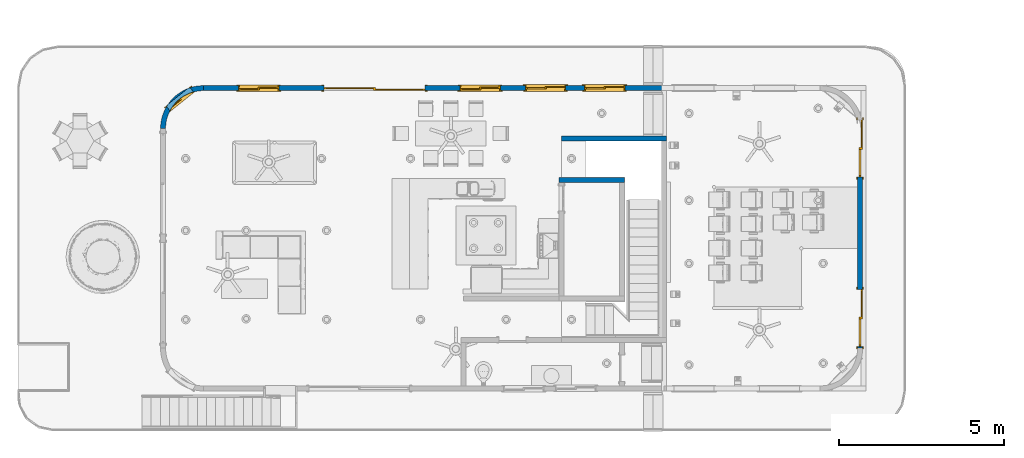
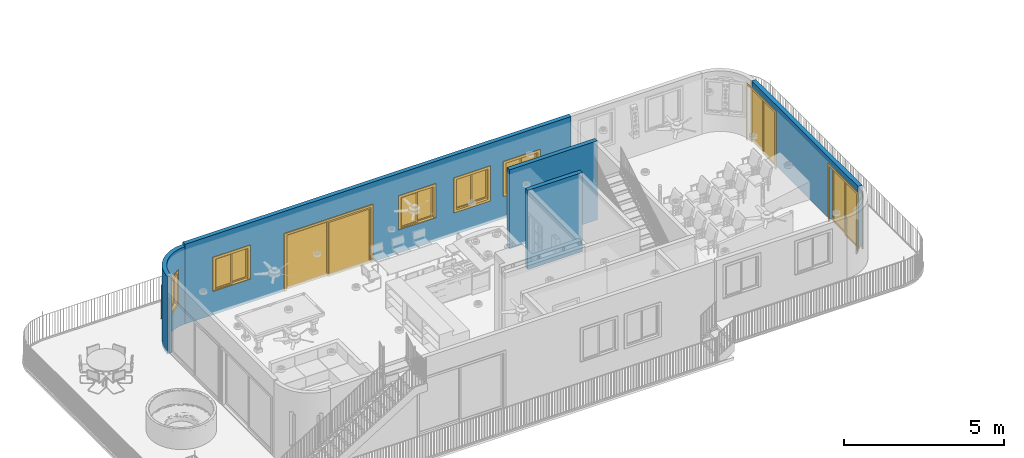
# One storey, part 4 of 21: 5 walls, 5 windows, 3 doors, 8 openings.
"""IFC2X3 building model written with IfcOpenShell, lengths in feet."""

from ifc_helpers import new_model, entity, si_unit, converted_unit, derived_unit, direction, frame, frame_2d, origin, origin_2d_with_axis, place, context, subcontext, project, spatial, polyline, circle_curve, parameter, trimmed, segment, composite_curve, rectangle, outline, extrude, clip, bounded_halfspace, source, transform, mapped, material, material_list, layer, layer_set, layer_usage, type_object, type_shapes, element, fill, save


model = new_model("IFC2X3")

# Units and contexts
model_context = context("Model", 3, precision=0.0001, world=origin(), true_north=direction((6.12303176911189e-17, 1.0)))
body_context = subcontext(model_context, "Body", "Model", "MODEL_VIEW")
ifc_project = project(units=[converted_unit("LENGTHUNIT", "FOOT", entity("IfcRatioMeasure", 0.3048), si_unit("LENGTHUNIT", "METRE"), dimensions=[1, 0, 0, 0, 0, 0, 0]), converted_unit("AREAUNIT", "SQUARE FOOT", entity("IfcRatioMeasure", 0.09290304), si_unit("AREAUNIT", "SQUARE_METRE"), dimensions=[2, 0, 0, 0, 0, 0, 0]), converted_unit("VOLUMEUNIT", "CUBIC FOOT", entity("IfcRatioMeasure", 0.028316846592), si_unit("VOLUMEUNIT", "CUBIC_METRE"), dimensions=[3, 0, 0, 0, 0, 0, 0]), converted_unit("PLANEANGLEUNIT", "DEGREE", entity("IfcRatioMeasure", 0.0174532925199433), si_unit("PLANEANGLEUNIT", "RADIAN"), dimensions=[0, 0, 0, 0, 0, 0, 0]), si_unit("MASSUNIT", "GRAM", prefix="KILO"), derived_unit("MASSDENSITYUNIT", [(si_unit("MASSUNIT", "GRAM", prefix="KILO"), 1), (si_unit("LENGTHUNIT", "METRE"), -3)]), si_unit("TIMEUNIT", "SECOND"), si_unit("FREQUENCYUNIT", "HERTZ"), si_unit("THERMODYNAMICTEMPERATUREUNIT", "DEGREE_CELSIUS"), derived_unit("THERMALTRANSMITTANCEUNIT", [(si_unit("MASSUNIT", "GRAM", prefix="KILO"), 1), (si_unit("THERMODYNAMICTEMPERATUREUNIT", "KELVIN"), -1), (si_unit("TIMEUNIT", "SECOND"), -3)]), derived_unit("VOLUMETRICFLOWRATEUNIT", [(si_unit("LENGTHUNIT", "METRE"), 3), (si_unit("TIMEUNIT", "SECOND"), -1)]), si_unit("ELECTRICCURRENTUNIT", "AMPERE"), si_unit("ELECTRICVOLTAGEUNIT", "VOLT"), si_unit("POWERUNIT", "WATT"), si_unit("FORCEUNIT", "NEWTON"), si_unit("ILLUMINANCEUNIT", "LUX"), si_unit("LUMINOUSFLUXUNIT", "LUMEN"), si_unit("LUMINOUSINTENSITYUNIT", "CANDELA"), derived_unit("USERDEFINED", [(si_unit("MASSUNIT", "GRAM", prefix="KILO"), -1), (si_unit("LENGTHUNIT", "METRE"), -2), (si_unit("TIMEUNIT", "SECOND"), 3), (si_unit("LUMINOUSFLUXUNIT", "LUMEN"), 1)]), derived_unit("LINEARVELOCITYUNIT", [(si_unit("LENGTHUNIT", "METRE"), 1), (si_unit("TIMEUNIT", "SECOND"), -1)]), si_unit("PRESSUREUNIT", "PASCAL"), derived_unit("USERDEFINED", [(si_unit("LENGTHUNIT", "METRE"), -2), (si_unit("MASSUNIT", "GRAM", prefix="KILO"), 1), (si_unit("TIMEUNIT", "SECOND"), -2)])], contexts=[model_context])

# Site, building, storey
site_placement = place(None, origin())
site = spatial("IfcSite", under=ifc_project, at=site_placement, Name="表面", CompositionType="ELEMENT")
building_placement = place(site_placement, origin())
building = spatial("IfcBuilding", under=site, at=building_placement, CompositionType="ELEMENT")
storey_placement = place(building_placement, origin())
storey = spatial("IfcBuildingStorey", under=building, at=storey_placement, Name="Level 1", CompositionType="ELEMENT", Elevation=0.0)

# Walls
ifc_material_1 = material(Name="Paint")
ifc_layer_1 = layer(ifc_material_1, 0.333333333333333)
ifc_material_2 = material(Name="Paints and Coatings")
ifc_layer_2 = layer(ifc_material_2, 0.166666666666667)
ifc_layer_set = layer_set([ifc_layer_1, ifc_layer_2], Name="基本墙:Generic - 4\" Brick")
ifc_layer_usage_1 = layer_usage(ifc_layer_set, "AXIS2", "NEGATIVE", 0.25)
wall_type = type_object("IfcWallType", Name="基本墙:Generic - 4\" Brick", PredefinedType="STANDARD", material=ifc_layer_set)
wall_1_placement = place(storey_placement, frame((5.79842024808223, 11.6823936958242, 0.0)))
element("IfcWallStandardCase", 1, at=wall_1_placement, inside=storey, type_object=wall_type, material=ifc_layer_usage_1, Name="基本墙:Generic - 4\" Brick", ObjectType="基本墙:Generic - 4\" Brick:257", context=body_context, shape_type="Clipping", body=[
    clip(extrude(rectangle(XDim=10.4166666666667, YDim=0.5, at=frame_2d((5.20833333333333, 3.88578058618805e-16), x_axis=(-1.0, 0.0))), origin(), (0.0, 0.0, 1.0), 9.90624999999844), bounded_halfspace(frame((9.91666666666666, -0.25, 9.90624999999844), z_axis=(0.0, 0.0, -1.0), x_axis=(0.0, -1.0, 0.0)), True, frame((9.91666666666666, -0.25, 9.90624999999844)), polyline([(0.0, 0.0), (0.5, 0.0), (0.499999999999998, 0.500000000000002), (0.0, 0.5), (0.0, 0.0)]))),
])
ifc_layer_usage_2 = layer_usage(ifc_layer_set, "AXIS2", "NEGATIVE", 0.25)
wall_2_placement = place(storey_placement, frame((5.54842024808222, 7.54043959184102, 0.0)))
element("IfcWallStandardCase", 2, at=wall_2_placement, inside=storey, type_object=wall_type, material=ifc_layer_usage_2, Name="基本墙:Generic - 4\" Brick", ObjectType="基本墙:Generic - 4\" Brick:257", context=body_context, shape_type="Clipping", body=[
    clip(clip(extrude(rectangle(XDim=6.50000000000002, YDim=0.5, at=frame_2d((3.25000000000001, -2.35922392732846e-16), x_axis=(-1.0, 0.0))), origin(), (0.0, 0.0, 1.0), 9.90624999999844), bounded_halfspace(frame((0.0, -0.25, 9.90624999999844), z_axis=(0.0, 0.0, -1.0), x_axis=(0.0, -1.0, 0.0)), True, frame((0.0, -0.25, 9.90624999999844)), polyline([(0.0, 0.0), (0.249999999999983, 0.0), (0.249999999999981, 0.499999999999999), (0.0, 0.5), (0.0, 0.0)]))), bounded_halfspace(frame((0.249999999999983, -0.250000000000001, 9.90624999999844), z_axis=(0.0, 0.0, -1.0), x_axis=(0.0, -1.0, 0.0)), True, frame((0.249999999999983, -0.250000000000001, 9.90624999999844)), polyline([(0.0, 0.0), (0.250000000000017, 0.0), (5.75000000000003, 0.0), (6.25000000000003, 0.0), (6.25000000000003, 0.5), (0.0, 0.5), (0.0, 0.0)]))),
])

# Wall, openings, door, windows
ifc_layer_usage_3 = layer_usage(ifc_layer_set, "AXIS2", "NEGATIVE", 0.25)
wall_3_placement = place(storey_placement, frame((-29.7849130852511, 16.6823936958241, 0.0)))
wall_3 = element("IfcWallStandardCase", 3, at=wall_3_placement, inside=storey, type_object=wall_type, material=ifc_layer_usage_3, Name="基本墙:Generic - 4\" Brick", ObjectType="基本墙:Generic - 4\" Brick:257", context=body_context, shape_type="SweptSolid", body=[
    extrude(rectangle(XDim=45.75, YDim=0.5, at=frame_2d((22.875, 0.0), x_axis=(-1.0, 0.0))), origin(), (0.0, 0.0, 1.0), 9.98958333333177),
])
opening_1_placement = place(wall_3_placement, frame((22.0, 0.249999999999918, 0.0)))
opening_1 = element("IfcOpeningElement", 4, at=opening_1_placement, cuts=wall_3, Name="Sliding-2 panel:72\" x 84\":1", ObjectType="Opening", context=body_context, shape_type="SweptSolid", body=[
    extrude(rectangle(XDim=6.99999999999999, YDim=10.0, at=frame_2d((3.5, 5.0), x_axis=(-1.0, 0.0))), frame((0.0, 0.0, 0.0), z_axis=(0.0, -1.0, 0.0), x_axis=(0.0, 0.0, 1.0)), (0.0, 0.0, 1.0), 0.5),
])
opening_2_placement = place(wall_3_placement, frame((7.49999999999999, 0.249999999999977, 3.0)))
opening_2 = element("IfcOpeningElement", 5, at=opening_2_placement, cuts=wall_3, Name="Slider with Trim:48\" x 48\":1", ObjectType="Opening", context=body_context, shape_type="SweptSolid", body=[
    extrude(rectangle(XDim=3.99999999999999, YDim=3.99999999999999, at=frame_2d((2.0, 2.0), x_axis=(-1.0, 0.0))), frame((0.0, 0.0, 0.0), z_axis=(0.0, -1.0, 0.0), x_axis=(0.0, 0.0, 1.0)), (0.0, 0.0, 1.0), 0.5),
])
opening_3_placement = place(wall_3_placement, frame((29.5, 0.249999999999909, 3.0)))
opening_3 = element("IfcOpeningElement", 6, at=opening_3_placement, cuts=wall_3, Name="Slider with Trim:48\" x 48\":1", ObjectType="Opening", context=body_context, shape_type="SweptSolid", body=[
    extrude(rectangle(XDim=3.99999999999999, YDim=3.99999999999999, at=frame_2d((2.0, 2.0), x_axis=(-1.0, 0.0))), frame((0.0, 0.0, 0.0), z_axis=(0.0, -1.0, 0.0), x_axis=(0.0, 0.0, 1.0)), (0.0, 0.0, 1.0), 0.5),
])
opening_4_placement = place(wall_3_placement, frame((32.0, -0.250000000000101, 3.0)))
opening_4 = element("IfcOpeningElement", 7, at=opening_4_placement, cuts=wall_3, Name="Slider with Trim:48\" x 48\":1", ObjectType="Opening", context=body_context, shape_type="SweptSolid", body=[
    extrude(rectangle(XDim=3.99999999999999, YDim=3.99999999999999, at=frame_2d((2.0, 2.0), x_axis=(-1.0, 0.0))), frame((0.0, 0.0, 0.0), z_axis=(0.0, 1.0, 0.0), x_axis=(0.0, 0.0, 1.0)), (0.0, 0.0, 1.0), 0.5),
])
opening_5_placement = place(wall_3_placement, frame((37.875, -0.250000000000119, 3.0)))
opening_5 = element("IfcOpeningElement", 8, at=opening_5_placement, cuts=wall_3, Name="Slider with Trim:48\" x 48\":1", ObjectType="Opening", context=body_context, shape_type="SweptSolid", body=[
    extrude(rectangle(XDim=3.99999999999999, YDim=3.99999999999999, at=frame_2d((2.0, 2.0), x_axis=(-1.0, 0.0))), frame((0.0, 0.0, 0.0), z_axis=(0.0, 1.0, 0.0), x_axis=(0.0, 0.0, 1.0)), (0.0, 0.0, 1.0), 0.5),
])
ifc_material_3 = material(Name="Glass")
ifc_material_4 = material(Name="Door - Panel")
ifc_material_5 = material(Name="Door - Frame")
ifc_material_list_1 = material_list([ifc_material_3, ifc_material_4, ifc_material_5])
ifc_material_list_2 = material_list([ifc_material_3, ifc_material_4, ifc_material_5])
door_style_1 = type_object("IfcDoorStyle", Name="72\" x 84\"", ConstructionType="NOTDEFINED", OperationType="NOTDEFINED", ParameterTakesPrecedence=False, Sizeable=False, material=ifc_material_list_2)
shared_shape_1 = source(origin(), body_context, "Body", "SweptSolid", [
    extrude(rectangle(XDim=0.0208333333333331, YDim=4.74999999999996, at=frame_2d((5.55111512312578e-17, 0.0), x_axis=(1.0, 0.0))), frame((7.45833333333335, 0.250000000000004, 0.249999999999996), z_axis=(0.0, 0.0, 1.0), x_axis=(0.0, -1.0, 0.0)), (0.0, 0.0, 1.0), 6.5),
    extrude(outline(polyline([(-2.54166666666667, -3.5), (2.54166666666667, -3.5), (2.54166666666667, 3.5), (-2.54166666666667, 3.5), (-2.54166666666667, -3.5)]), holes=[polyline([(-2.375, -3.25), (-2.375, 3.25), (2.375, 3.25), (2.375, -3.25), (-2.375, -3.25)])]), frame((7.45833333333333, 0.166666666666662, 3.5), z_axis=(0.0, 1.0, 0.0), x_axis=(1.0, 0.0, 0.0)), (0.0, 0.0, 1.0), 0.166666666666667),
    extrude(rectangle(XDim=0.0208333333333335, YDim=4.75000000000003, at=frame_2d((0.0, -4.44089209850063e-16), x_axis=(1.0, 0.0))), frame((2.54166666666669, 0.416666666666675, 0.249999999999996), z_axis=(0.0, 0.0, 1.0), x_axis=(0.0, -1.0, 0.0)), (0.0, 0.0, 1.0), 6.5),
    extrude(outline(polyline([(-3.5, -2.54166666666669), (3.5, -2.54166666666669), (3.5, 2.54166666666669), (-3.5, 2.54166666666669), (-3.5, -2.54166666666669)]), holes=[polyline([(-3.25, -2.37500000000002), (-3.25, 2.37500000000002), (3.25, 2.37500000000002), (3.25, -2.37500000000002), (-3.25, -2.37500000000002)])]), frame((2.54166666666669, 0.333333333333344, 3.5), z_axis=(0.0, 1.0, 0.0), x_axis=(0.0, 0.0, -1.0)), (0.0, 0.0, 1.0), 0.166666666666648),
    extrude(outline(polyline([(-3.5625, -5.25), (3.6875, -5.25), (3.6875, 5.25), (-3.5625, 5.25), (-3.5625, 5.0), (3.4375, 5.0), (3.4375, -5.0), (-3.5625, -5.0), (-3.5625, -5.25)])), frame((5.0, -0.0833333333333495, 3.5625), z_axis=(0.0, 1.0, 0.0), x_axis=(0.0, 0.0, 1.0)), (0.0, 0.0, 1.0), 0.0833333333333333),
    extrude(outline(polyline([(-5.24999999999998, -3.56250000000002), (-5.0, -3.56250000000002), (-5.0, 3.43749999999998), (5.0, 3.43750000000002), (5.0, -3.56249999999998), (5.25000000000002, -3.56249999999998), (5.24999999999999, 3.68750000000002), (-5.25000000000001, 3.68749999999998), (-5.24999999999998, -3.56250000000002)])), frame((5.0, 0.499999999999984, 3.5625), z_axis=(0.0, 1.0, 0.0), x_axis=(-1.0, 0.0, 0.0)), (0.0, 0.0, 1.0), 0.0833333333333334),
])
type_shapes(door_style_1, [shared_shape_1])
door_1_placement = place(opening_1_placement, frame((0.0, 0.0, 0.0), z_axis=(0.0, 0.0, 1.0), x_axis=(-1.0, 0.0, 0.0)))
door_1 = element("IfcDoor", 9, at=door_1_placement, inside=storey, type_object=door_style_1, material=ifc_material_list_1, Name="Sliding-2 panel:72\" x 84\"", ObjectType="72\" x 84\"", OverallHeight=6.99999999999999, OverallWidth=10.0, context=body_context, shape_type="MappedRepresentation", body=[
    mapped(shared_shape_1, transform((0.0, 0.0, 0.0), scale=1.0)),
])
fill(opening_1, door_1)
ifc_material_6 = material(Name="Sash")
ifc_material_7 = material(Name="Trim")
ifc_material_list_3 = material_list([ifc_material_3, ifc_material_6, ifc_material_7])
ifc_material_list_4 = material_list([ifc_material_3, ifc_material_6, ifc_material_7])
window_style_1 = type_object("IfcWindowStyle", Name="48\" x 48\"", ConstructionType="NOTDEFINED", OperationType="NOTDEFINED", ParameterTakesPrecedence=False, Sizeable=False, material=ifc_material_list_4)
shared_shape_2 = source(origin(), body_context, "Body", "SweptSolid", [
    extrude(rectangle(XDim=0.0416666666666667, YDim=1.71875000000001, at=origin_2d_with_axis()), frame((1.06770833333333, 0.21875, 0.208333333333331), z_axis=(0.0, 0.0, 1.0), x_axis=(0.0, -1.0, 0.0)), (0.0, 0.0, 1.0), 3.58333333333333),
    extrude(outline(polyline([(-1.00520833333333, -1.9375), (1.00520833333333, -1.9375), (1.00520833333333, 1.9375), (-1.00520833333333, 1.9375), (-1.00520833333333, -1.9375)]), holes=[polyline([(-0.859374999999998, -1.79166666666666), (-0.859374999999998, 1.79166666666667), (0.859374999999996, 1.79166666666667), (0.859374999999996, -1.79166666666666), (-0.859374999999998, -1.79166666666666)])]), frame((1.06770833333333, 0.145833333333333, 2.0), z_axis=(0.0, 1.0, 0.0), x_axis=(1.0, 0.0, 0.0)), (0.0, 0.0, 1.0), 0.145833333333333),
    extrude(rectangle(XDim=0.104166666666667, YDim=4.45833333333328, at=frame_2d((-2.77555756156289e-17, 0.0), x_axis=(1.0, 0.0))), frame((2.0, 0.552083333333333, 0.0), z_axis=(0.0, 0.0, 1.0), x_axis=(0.0, -1.0, 0.0)), (0.0, 0.0, 1.0), 0.0624999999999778),
    extrude(outline(polyline([(-1.86458333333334, 1.9375), (2.01041666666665, 1.9375), (2.01041666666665, 2.22916666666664), (-2.15624999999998, 2.22916666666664), (-2.15624999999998, -2.22916666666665), (2.01041666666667, -2.22916666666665), (2.01041666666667, -1.93749999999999), (-1.86458333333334, -1.93749999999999), (-1.86458333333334, 1.9375)])), frame((2.0, 0.5, 2.07291666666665), z_axis=(0.0, 1.0, 0.0), x_axis=(0.0, 0.0, -1.0)), (0.0, 0.0, 1.0), 0.0625),
    extrude(outline(polyline([(-2.18749999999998, -2.18749999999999), (2.18749999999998, -2.18749999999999), (2.18749999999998, 2.18749999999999), (-2.18749999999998, 2.18749999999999), (-2.18749999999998, -2.18749999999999)]), holes=[polyline([(-1.89583333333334, -1.89583333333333), (-1.89583333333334, 1.89583333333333), (1.89583333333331, 1.89583333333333), (1.89583333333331, -1.89583333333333), (-1.89583333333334, -1.89583333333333)])]), frame((2.0, -0.0625, 2.0), z_axis=(0.0, 1.0, 0.0), x_axis=(0.0, 0.0, -1.0)), (0.0, 0.0, 1.0), 0.0625),
    extrude(rectangle(XDim=0.0416666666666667, YDim=1.71874999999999, at=frame_2d((1.38777878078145e-17, 0.0), x_axis=(1.0, 0.0))), frame((2.93229166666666, 0.364583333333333, 0.208333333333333), z_axis=(0.0, 0.0, 1.0), x_axis=(0.0, 1.0, 0.0)), (0.0, 0.0, 1.0), 3.58333333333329),
    extrude(outline(polyline([(-1.00520833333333, -1.93749999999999), (1.00520833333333, -1.93749999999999), (1.00520833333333, 1.93749999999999), (-1.00520833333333, 1.93749999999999), (-1.00520833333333, -1.93749999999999)]), holes=[polyline([(-0.859374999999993, -1.79166666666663), (-0.859374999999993, 1.79166666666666), (0.859374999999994, 1.79166666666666), (0.859374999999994, -1.79166666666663), (-0.859374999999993, -1.79166666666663)])]), frame((2.93229166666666, 0.291666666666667, 2.0), z_axis=(0.0, 1.0, 0.0), x_axis=(1.0, 0.0, 0.0)), (0.0, 0.0, 1.0), 0.145833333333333),
    extrude(outline(polyline([(-2.0, -2.0), (2.0, -2.0), (2.0, 2.0), (-2.0, 2.0), (-2.0, -2.0)]), holes=[polyline([(-1.89583333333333, -1.89583333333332), (-1.89583333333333, 1.89583333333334), (1.89583333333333, 1.89583333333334), (1.89583333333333, -1.89583333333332), (-1.89583333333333, -1.89583333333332)])]), frame((2.0, 0.0, 2.0), z_axis=(0.0, 1.0, 0.0), x_axis=(1.0, 0.0, 0.0)), (0.0, 0.0, 1.0), 0.145833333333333),
    extrude(outline(polyline([(-2.0, -2.0), (2.0, -2.0), (2.0, 2.0), (-2.0, 2.0), (-2.0, -2.0)]), holes=[polyline([(-1.9375, -1.93749999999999), (-1.9375, 1.9375), (1.9375, 1.9375), (1.9375, -1.93749999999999), (-1.9375, -1.93749999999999)])]), frame((2.0, 0.145833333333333, 2.0), z_axis=(0.0, 1.0, 0.0), x_axis=(0.0, 0.0, -1.0)), (0.0, 0.0, 1.0), 0.354166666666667),
])
type_shapes(window_style_1, [shared_shape_2])
window_1_placement = place(opening_2_placement, frame((0.0, 0.0, 0.0), z_axis=(0.0, 0.0, 1.0), x_axis=(-1.0, 0.0, 0.0)))
window_1 = element("IfcWindow", 10, at=window_1_placement, inside=storey, type_object=window_style_1, material=ifc_material_list_3, Name="Slider with Trim:48\" x 48\"", ObjectType="48\" x 48\"", OverallHeight=3.99999999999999, OverallWidth=3.99999999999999, context=body_context, shape_type="MappedRepresentation", body=[
    mapped(shared_shape_2, transform((0.0, 0.0, 0.0), scale=1.0)),
])
fill(opening_2, window_1)
ifc_material_list_5 = material_list([ifc_material_3, ifc_material_6, ifc_material_7])
window_2_placement = place(opening_3_placement, frame((0.0, 0.0, 0.0), z_axis=(0.0, 0.0, 1.0), x_axis=(-1.0, 0.0, 0.0)))
window_2 = element("IfcWindow", 11, at=window_2_placement, inside=storey, type_object=window_style_1, material=ifc_material_list_5, Name="Slider with Trim:48\" x 48\"", ObjectType="48\" x 48\"", OverallHeight=3.99999999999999, OverallWidth=3.99999999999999, context=body_context, shape_type="MappedRepresentation", body=[
    mapped(shared_shape_2, transform((0.0, 0.0, 0.0), scale=1.0)),
])
fill(opening_3, window_2)
ifc_material_list_6 = material_list([ifc_material_3, ifc_material_6, ifc_material_7])
window_3_placement = place(opening_4_placement, origin())
window_3 = element("IfcWindow", 12, at=window_3_placement, inside=storey, type_object=window_style_1, material=ifc_material_list_6, Name="Slider with Trim:48\" x 48\"", ObjectType="48\" x 48\"", OverallHeight=3.99999999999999, OverallWidth=3.99999999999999, context=body_context, shape_type="MappedRepresentation", body=[
    mapped(shared_shape_2, transform((0.0, 0.0, 0.0), scale=1.0)),
])
fill(opening_4, window_3)
ifc_material_list_7 = material_list([ifc_material_3, ifc_material_6, ifc_material_7])
window_4_placement = place(opening_5_placement, origin())
window_4 = element("IfcWindow", 13, at=window_4_placement, inside=storey, type_object=window_style_1, material=ifc_material_list_7, Name="Slider with Trim:48\" x 48\"", ObjectType="48\" x 48\"", OverallHeight=3.99999999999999, OverallWidth=3.99999999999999, context=body_context, shape_type="MappedRepresentation", body=[
    mapped(shared_shape_2, transform((0.0, 0.0, 0.0), scale=1.0)),
])
fill(opening_5, window_4)

# Wall, opening, window
ifc_layer_usage_4 = layer_usage(ifc_layer_set, "AXIS2", "POSITIVE", -0.25)
wall_4_placement = place(storey_placement, frame((-33.7849130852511, 12.6823936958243, 0.0)))
wall_4 = element("IfcWallStandardCase", 14, at=wall_4_placement, inside=storey, type_object=wall_type, material=ifc_layer_usage_4, Name="基本墙:Generic - 4\" Brick", ObjectType="基本墙:Generic - 4\" Brick:257", context=body_context, shape_type="SweptSolid", body=[
    extrude(outline(composite_curve([segment(trimmed(circle_curve(frame_2d((4.0, 0.0), x_axis=(1.0, 0.0)), 4.25), [parameter(89.9999999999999)], [parameter(180.0)], True, "PARAMETER"), True, "CONTINUOUS"), segment(polyline([(-0.25, 0.0), (0.25, 0.0)]), True, "CONTINUOUS"), segment(trimmed(circle_curve(frame_2d((4.0, 0.0), x_axis=(1.0, 0.0)), 3.75), [parameter(89.9999999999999)], [parameter(180.0)], True, "PARAMETER"), False, "CONTINUOUS"), segment(polyline([(4.0, 3.75000000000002), (4.0, 4.25000000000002)]), True, "CONTINUOUS")], self_intersect=False)), origin(), (0.0, 0.0, 1.0), 9.69408600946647),
])
opening_6_placement = place(wall_4_placement, frame((1.52785339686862, 0.68997100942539, 3.0)))
opening_6 = element("IfcOpeningElement", 15, at=opening_6_placement, cuts=wall_4, Name="Slider with Trim:36\" x 48\":1", ObjectType="Opening", context=body_context, shape_type="SweptSolid", body=[
    extrude(rectangle(XDim=3.99999999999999, YDim=3.0, at=frame_2d((2.0, 1.5), x_axis=(-1.0, 0.0))), frame((0.0, 0.0, 0.0), z_axis=(-0.624470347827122, 0.781048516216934, 0.0), x_axis=(0.0, 0.0, 1.0)), (0.0, 0.0, 1.0), 1.98126534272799),
])
ifc_material_list_8 = material_list([ifc_material_3, ifc_material_6, ifc_material_7])
ifc_material_list_9 = material_list([ifc_material_3, ifc_material_6, ifc_material_7])
window_style_2 = type_object("IfcWindowStyle", Name="36\" x 48\"", ConstructionType="NOTDEFINED", OperationType="NOTDEFINED", ParameterTakesPrecedence=False, Sizeable=False, material=ifc_material_list_9)
shared_shape_3 = source(origin(), body_context, "Body", "SweptSolid", [
    extrude(rectangle(XDim=0.0416666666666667, YDim=1.21875000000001, at=origin_2d_with_axis()), frame((0.817708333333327, 0.21875, 0.208333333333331), z_axis=(0.0, 0.0, 1.0), x_axis=(0.0, -1.0, 0.0)), (0.0, 0.0, 1.0), 3.58333333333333),
    extrude(outline(polyline([(-0.755208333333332, -1.9375), (0.755208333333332, -1.9375), (0.755208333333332, 1.9375), (-0.755208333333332, 1.9375), (-0.755208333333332, -1.9375)]), holes=[polyline([(-0.609374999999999, -1.79166666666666), (-0.609374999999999, 1.79166666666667), (0.609374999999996, 1.79166666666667), (0.609374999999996, -1.79166666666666), (-0.609374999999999, -1.79166666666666)])]), frame((0.817708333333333, 0.145833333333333, 2.0), z_axis=(0.0, 1.0, 0.0), x_axis=(1.0, 0.0, 0.0)), (0.0, 0.0, 1.0), 0.145833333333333),
    extrude(rectangle(XDim=0.104166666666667, YDim=3.45833333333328, at=frame_2d((-2.77555756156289e-17, 0.0), x_axis=(1.0, 0.0))), frame((1.50000000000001, 0.552083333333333, 0.0), z_axis=(0.0, 0.0, 1.0), x_axis=(0.0, -1.0, 0.0)), (0.0, 0.0, 1.0), 0.0624999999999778),
    extrude(outline(polyline([(-1.86458333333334, 1.4375), (2.01041666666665, 1.4375), (2.01041666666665, 1.72916666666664), (-2.15624999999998, 1.72916666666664), (-2.15624999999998, -1.72916666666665), (2.01041666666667, -1.72916666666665), (2.01041666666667, -1.43749999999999), (-1.86458333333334, -1.43749999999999), (-1.86458333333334, 1.4375)])), frame((1.5, 0.5, 2.07291666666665), z_axis=(0.0, 1.0, 0.0), x_axis=(0.0, 0.0, -1.0)), (0.0, 0.0, 1.0), 0.0625),
    extrude(outline(polyline([(-2.18749999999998, -1.68749999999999), (2.18749999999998, -1.68749999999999), (2.18749999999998, 1.68749999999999), (-2.18749999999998, 1.68749999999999), (-2.18749999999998, -1.68749999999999)]), holes=[polyline([(-1.89583333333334, -1.39583333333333), (-1.89583333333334, 1.39583333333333), (1.89583333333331, 1.39583333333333), (1.89583333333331, -1.39583333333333), (-1.89583333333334, -1.39583333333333)])]), frame((1.5, -0.0625, 2.0), z_axis=(0.0, 1.0, 0.0), x_axis=(0.0, 0.0, -1.0)), (0.0, 0.0, 1.0), 0.0625),
    extrude(rectangle(XDim=0.0416666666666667, YDim=1.21874999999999, at=frame_2d((1.38777878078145e-17, 0.0), x_axis=(1.0, 0.0))), frame((2.18229166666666, 0.364583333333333, 0.208333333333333), z_axis=(0.0, 0.0, 1.0), x_axis=(0.0, 1.0, 0.0)), (0.0, 0.0, 1.0), 3.58333333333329),
    extrude(outline(polyline([(-0.755208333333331, -1.93749999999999), (0.755208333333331, -1.93749999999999), (0.755208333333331, 1.93749999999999), (-0.755208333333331, 1.93749999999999), (-0.755208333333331, -1.93749999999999)]), holes=[polyline([(-0.609374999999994, -1.79166666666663), (-0.609374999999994, 1.79166666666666), (0.609374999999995, 1.79166666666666), (0.609374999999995, -1.79166666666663), (-0.609374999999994, -1.79166666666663)])]), frame((2.18229166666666, 0.291666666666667, 2.0), z_axis=(0.0, 1.0, 0.0), x_axis=(1.0, 0.0, 0.0)), (0.0, 0.0, 1.0), 0.145833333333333),
    extrude(outline(polyline([(-1.5, -2.0), (1.5, -2.0), (1.5, 2.0), (-1.5, 2.0), (-1.5, -2.0)]), holes=[polyline([(-1.39583333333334, -1.89583333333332), (-1.39583333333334, 1.89583333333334), (1.39583333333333, 1.89583333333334), (1.39583333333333, -1.89583333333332), (-1.39583333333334, -1.89583333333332)])]), frame((1.5, 0.0, 2.0), z_axis=(0.0, 1.0, 0.0), x_axis=(1.0, 0.0, 0.0)), (0.0, 0.0, 1.0), 0.145833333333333),
    extrude(outline(polyline([(-2.0, -1.5), (2.0, -1.5), (2.0, 1.5), (-2.0, 1.5), (-2.0, -1.5)]), holes=[polyline([(-1.9375, -1.43749999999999), (-1.9375, 1.4375), (1.9375, 1.4375), (1.9375, -1.43749999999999), (-1.9375, -1.43749999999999)])]), frame((1.5, 0.145833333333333, 2.0), z_axis=(0.0, 1.0, 0.0), x_axis=(0.0, 0.0, -1.0)), (0.0, 0.0, 1.0), 0.354166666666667),
])
type_shapes(window_style_2, [shared_shape_3])
window_5_placement = place(opening_6_placement, frame((-0.845688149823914, 1.05773392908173, 0.0), z_axis=(0.0, 0.0, 1.0), x_axis=(0.781048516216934, 0.624470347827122, 0.0)))
window_5 = element("IfcWindow", 16, at=window_5_placement, inside=storey, type_object=window_style_2, material=ifc_material_list_8, Name="Slider with Trim:36\" x 48\"", ObjectType="36\" x 48\"", OverallHeight=3.99999999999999, OverallWidth=3.0, context=body_context, shape_type="MappedRepresentation", body=[
    mapped(shared_shape_3, transform((0.0, 0.0, 0.0), scale=1.0)),
])
fill(opening_6, window_5)

# Wall, openings, doors
ifc_layer_usage_5 = layer_usage(ifc_layer_set, "AXIS2", "NEGATIVE", 0.25)
wall_5_placement = place(storey_placement, frame((35.4650869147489, 12.6823936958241, 2.36529807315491), z_axis=(0.0, 0.0, 1.0), x_axis=(0.0, -1.0, 0.0)))
wall_5 = element("IfcWallStandardCase", 17, at=wall_5_placement, inside=storey, type_object=wall_type, material=ifc_layer_usage_5, Name="基本墙:Generic - 4\" Brick", ObjectType="基本墙:Generic - 4\" Brick:257", context=body_context, shape_type="Clipping", body=[
    clip(extrude(rectangle(XDim=21.8333333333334, YDim=0.5, at=frame_2d((10.9166666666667, 3.60822483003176e-16), x_axis=(-1.0, 0.0))), origin(), (0.0, 0.0, 1.0), 7.62428526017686), bounded_halfspace(frame((0.0, -0.25, 7.62428526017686), z_axis=(0.0, 0.0, -1.0), x_axis=(1.0, 0.0, 0.0)), True, frame((0.0, -0.25, 7.62428526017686)), polyline([(0.0, 0.0), (21.8333333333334, 0.0), (21.8333333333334, 0.500000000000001), (0.0, 0.5), (0.0, 0.0)]))),
])
opening_7_placement = place(wall_5_placement, frame((-0.833333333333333, -0.249999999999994, -0.365298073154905)))
opening_7 = element("IfcOpeningElement", 18, at=opening_7_placement, cuts=wall_5, Name="Sliding-2 panel:68\" x 84\":1", ObjectType="Opening", context=body_context, shape_type="SweptSolid", body=[
    extrude(rectangle(XDim=6.99999999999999, YDim=5.66666666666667, at=frame_2d((3.5, 2.83333333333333), x_axis=(-1.0, 0.0))), frame((0.0, 0.0, 0.0), z_axis=(0.0, 1.0, 0.0), x_axis=(0.0, 0.0, 1.0)), (0.0, 0.0, 1.0), 0.5),
])
opening_8_placement = place(wall_5_placement, frame((16.0, -0.250000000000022, -0.365298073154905)))
opening_8 = element("IfcOpeningElement", 19, at=opening_8_placement, cuts=wall_5, Name="Sliding-2 panel:68\" x 84\":1", ObjectType="Opening", context=body_context, shape_type="SweptSolid", body=[
    extrude(rectangle(XDim=6.99999999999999, YDim=5.66666666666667, at=frame_2d((3.5, 2.83333333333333), x_axis=(-1.0, 0.0))), frame((0.0, 0.0, 0.0), z_axis=(0.0, 1.0, 0.0), x_axis=(0.0, 0.0, 1.0)), (0.0, 0.0, 1.0), 0.5),
])
ifc_material_list_10 = material_list([ifc_material_3, ifc_material_4, ifc_material_5])
ifc_material_list_11 = material_list([ifc_material_3, ifc_material_4, ifc_material_5])
door_style_2 = type_object("IfcDoorStyle", Name="68\" x 84\"", ConstructionType="NOTDEFINED", OperationType="NOTDEFINED", ParameterTakesPrecedence=False, Sizeable=False, material=ifc_material_list_11)
shared_shape_4 = source(origin(), body_context, "Body", "SweptSolid", [
    extrude(rectangle(XDim=0.0208333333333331, YDim=2.5833333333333, at=origin_2d_with_axis()), frame((4.20833333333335, 0.250000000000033, 0.166666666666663), z_axis=(0.0, 0.0, 1.0), x_axis=(0.0, -1.0, 0.0)), (0.0, 0.0, 1.0), 6.66666666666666),
    extrude(outline(polyline([(-1.45833333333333, -3.5), (1.45833333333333, -3.5), (1.45833333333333, 3.5), (-1.45833333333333, 3.5), (-1.45833333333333, -3.5)]), holes=[polyline([(-1.29166666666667, -3.33333333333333), (-1.29166666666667, 3.33333333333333), (1.29166666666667, 3.33333333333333), (1.29166666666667, -3.33333333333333), (-1.29166666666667, -3.33333333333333)])]), frame((4.20833333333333, 0.16666666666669, 3.5), z_axis=(0.0, 1.0, 0.0), x_axis=(1.0, 0.0, 0.0)), (0.0, 0.0, 1.0), 0.166666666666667),
    extrude(rectangle(XDim=0.0208333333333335, YDim=2.58333333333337, at=frame_2d((5.55111512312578e-17, 0.0), x_axis=(1.0, 0.0))), frame((1.45833333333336, 0.416666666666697, 0.166666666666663), z_axis=(0.0, 0.0, 1.0), x_axis=(0.0, -1.0, 0.0)), (0.0, 0.0, 1.0), 6.66666666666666),
    extrude(outline(polyline([(-3.5, -1.45833333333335), (3.5, -1.45833333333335), (3.5, 1.45833333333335), (-3.5, 1.45833333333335), (-3.5, -1.45833333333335)]), holes=[polyline([(-3.33333333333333, -1.29166666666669), (-3.33333333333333, 1.29166666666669), (3.33333333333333, 1.29166666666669), (3.33333333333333, -1.29166666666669), (-3.33333333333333, -1.29166666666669)])]), frame((1.45833333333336, 0.333333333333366, 3.5), z_axis=(0.0, 1.0, 0.0), x_axis=(0.0, 0.0, -1.0)), (0.0, 0.0, 1.0), 0.166666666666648),
    extrude(outline(polyline([(-3.5625, -3.08333333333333), (3.6875, -3.08333333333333), (3.6875, 3.08333333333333), (-3.5625, 3.08333333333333), (-3.5625, 2.83333333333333), (3.4375, 2.83333333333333), (3.4375, -2.83333333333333), (-3.5625, -2.83333333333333), (-3.5625, -3.08333333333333)])), frame((2.83333333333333, -0.0833333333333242, 3.5625), z_axis=(0.0, 1.0, 0.0), x_axis=(0.0, 0.0, 1.0)), (0.0, 0.0, 1.0), 0.0833333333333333),
    extrude(outline(polyline([(-3.08333333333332, -3.56250000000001), (-2.83333333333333, -3.56250000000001), (-2.83333333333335, 3.43749999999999), (2.83333333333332, 3.43750000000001), (2.83333333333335, -3.56249999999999), (3.08333333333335, -3.56249999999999), (3.08333333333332, 3.68750000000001), (-3.08333333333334, 3.68749999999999), (-3.08333333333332, -3.56250000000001)])), frame((2.83333333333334, 0.500000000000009, 3.5625), z_axis=(0.0, 1.0, 0.0), x_axis=(-1.0, 0.0, 0.0)), (0.0, 0.0, 1.0), 0.0833333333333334),
])
type_shapes(door_style_2, [shared_shape_4])
door_2_placement = place(opening_7_placement, origin())
door_2 = element("IfcDoor", 20, at=door_2_placement, inside=storey, type_object=door_style_2, material=ifc_material_list_10, Name="Sliding-2 panel:68\" x 84\"", ObjectType="68\" x 84\"", OverallHeight=6.99999999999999, OverallWidth=5.66666666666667, context=body_context, shape_type="MappedRepresentation", body=[
    mapped(shared_shape_4, transform((0.0, 0.0, 0.0), scale=1.0)),
])
fill(opening_7, door_2)
ifc_material_list_12 = material_list([ifc_material_3, ifc_material_4, ifc_material_5])
door_3_placement = place(opening_8_placement, origin())
door_3 = element("IfcDoor", 21, at=door_3_placement, inside=storey, type_object=door_style_2, material=ifc_material_list_12, Name="Sliding-2 panel:68\" x 84\"", ObjectType="68\" x 84\"", OverallHeight=6.99999999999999, OverallWidth=5.66666666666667, context=body_context, shape_type="MappedRepresentation", body=[
    mapped(shared_shape_4, transform((0.0, 0.0, 0.0), scale=1.0)),
])
fill(opening_8, door_3)

save(model, "model.ifc")
